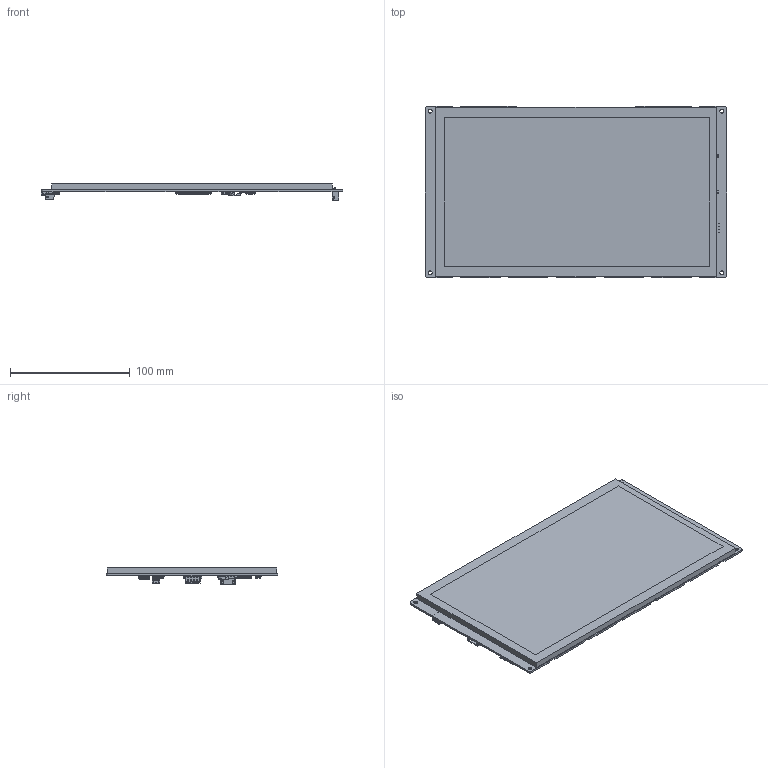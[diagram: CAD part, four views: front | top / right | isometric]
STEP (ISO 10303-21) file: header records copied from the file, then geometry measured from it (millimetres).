
FILE_DESCRIPTION(/* description */ (''),/* implementation_level */ '2;1');
FILE_NAME(/* name */ 'C:\Users\zhaoyunqi\Desktop\方案\终版\14.VS10\VS10-STEP模型.stp',/* time_stamp */ '2025-12-26T21:47:49+08:00',/* author */ ('zhaoyunqi'),/* organization */ (''),/* preprocessor_version */ 'ST-DEVELOPER v18',/* originating_system */ 'Autodesk Inventor 2020',/* authorisation */ '');
FILE_SCHEMA (('AUTOMOTIVE_DESIGN { 1 0 10303 214 3 1 1 }'));
Products named in the file (20): 模型; CR-927; BAT-SMD_MY-927-02~BAT-SMD_MY-927-02~GGM5; FPC-0.50-6P; FPC-SMD_P0.50-6P_LCS-SJ-H2.0~FPC-SMD_P0.50-6P_LCS-SJ-H2.0~GGM5; FPC-0.50-50P; FPC-SMD_AFC07-S50ECA-00~FPC-SMD_AFC07-S50ECA-00~GGM5; FPC-1.00-4P; FPC-SMD_P1.00-4P_LCS-XJ-H2.5~FPC-SMD_P1.00-4P_LCS-XJ-H2.5~GGM5; TF; SIM-SMD_TF110-AG1-004~SIM-SMD_TF110-AG1-004~GGM5; TYPE-C-16P; USB_TYPE-C-16P~USB-C_SMD-TYPE-C-31-M-12~GGM5; XH_4P-P2.50; CONN-SMD_4P-P2.50-WT~CONN-SMD_4P-P2.50-WT~GGM5; XH2.54-4P; CONN-TH_4P-P2.50-XH2.54-4P~CONN-TH_4P-P2.50-XH2.54-4P~GGM5; 模型_1; XH2.0-2P; CONN-TH_2P-P2.00_HX-2.0MM-2P-ZZ~CONN-TH_2P-P2.00_HX-2.0MM-2P-ZZ~nuVk
Assembly tree (20 placements, depth 3):
  模型
    CR-927
      BAT-SMD_MY-927-02~BAT-SMD_MY-927-02~GGM5
    FPC-0.50-6P
      FPC-SMD_P0.50-6P_LCS-SJ-H2.0~FPC-SMD_P0.50-6P_LCS-SJ-H2.0~GGM5
    FPC-0.50-50P
      FPC-SMD_AFC07-S50ECA-00~FPC-SMD_AFC07-S50ECA-00~GGM5
    FPC-1.00-4P
      FPC-SMD_P1.00-4P_LCS-XJ-H2.5~FPC-SMD_P1.00-4P_LCS-XJ-H2.5~GGM5
    TF
      SIM-SMD_TF110-AG1-004~SIM-SMD_TF110-AG1-004~GGM5
    TYPE-C-16P
      USB_TYPE-C-16P~USB-C_SMD-TYPE-C-31-M-12~GGM5
    XH_4P-P2.50
      CONN-SMD_4P-P2.50-WT~CONN-SMD_4P-P2.50-WT~GGM5
    XH2.0-2P  x2
      CONN-TH_2P-P2.00_HX-2.0MM-2P-ZZ~CONN-TH_2P-P2.00_HX-2.0MM-2P-ZZ~nuVk
    XH2.54-4P
      CONN-TH_4P-P2.50-XH2.54-4P~CONN-TH_4P-P2.50-XH2.54-4P~GGM5
    模型_1
Bounding box: 252 x 143.25 x 13.6 mm (x, y, z)
Volume: 224776.3 mm3; surface area: 209427.3 mm2
Topology: 141 solids, 141 shells, 8003 faces, 22174 edges, 14534 vertices
Faces by surface type: plane 5755, bspline 1178, cylinder 966, torus 102, sphere 2
Full cylindrical faces by diameter (mm): 0.511 x2, 0.731 x1, 0.8 x2, 1.5 x2, 3.2 x4
Entity records: 264422 total; most frequent: CARTESIAN_POINT 63085, ORIENTED_EDGE 42540, DIRECTION 36018, EDGE_CURVE 21270, LINE 17076, VECTOR 17076, VERTEX_POINT 13934, AXIS2_PLACEMENT_3D 9471
